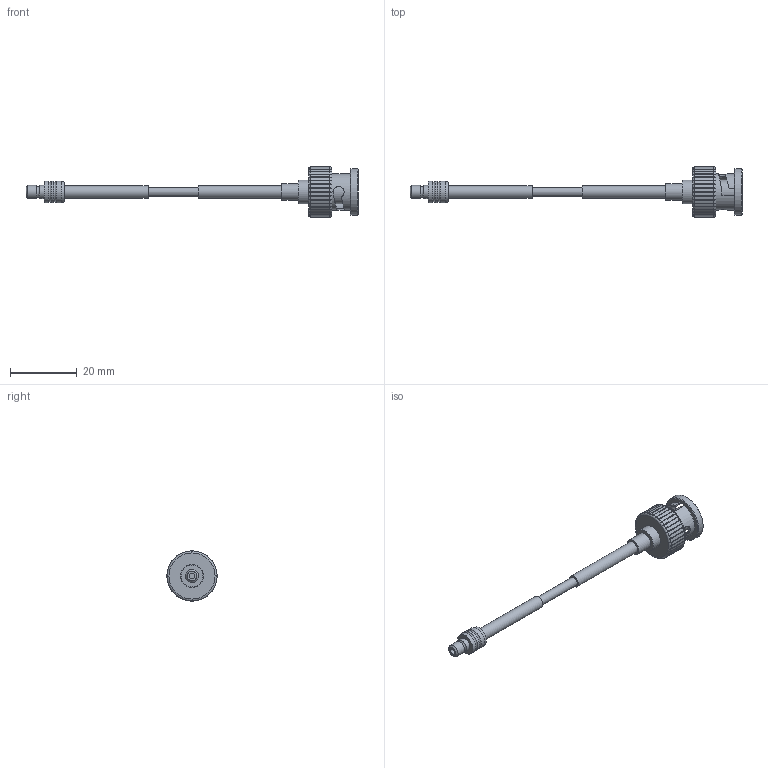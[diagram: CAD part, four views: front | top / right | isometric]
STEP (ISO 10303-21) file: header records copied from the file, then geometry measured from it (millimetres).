
FILE_DESCRIPTION( ( 'STEP AP214' ), '1' );
FILE_NAME( 'N:/Engineering/CAD_Solid/Wirbelstrom/Kabelverlängerung_TX-SMB-KOAX.stp', '2011-12-15T11:28:39', ( ' ' ), ( ' ' ), 'XStep 1.0', ' ', ' ' );
FILE_SCHEMA( ( 'CONFIG_CONTROL_DESIGN) ( )' ) );
Length unit declared in the file: metre
Products named in the file (4): 1; 2; 3; 4
Bounding box: 99.3 x 15 x 15 mm (x, y, z)
Volume: 236 mm3; surface area: 3417.4 mm2
Topology: 1 solids, 161 shells, 176 faces, 921 edges, 894 vertices
Faces by surface type: plane 101, cylinder 62, torus 5, cone 4, bspline 4
Full cylindrical faces by diameter (mm): 1.743 x1, 2.7 x2, 3.7 x2, 3.901 x2, 4.897 x1, 5 x1, 6.5 x3, 6.995 x1, 7 x1, 10 x1, 11 x1, 14 x1
Entity records: 10929 total; most frequent: CARTESIAN_POINT 3293, DIRECTION 1130, ORIENTED_EDGE 904, EDGE_CURVE 890, VERTEX_POINT 890, AXIS2_PLACEMENT_3D 417, B_SPLINE_CURVE_WITH_KNOTS 336, LINE 296
